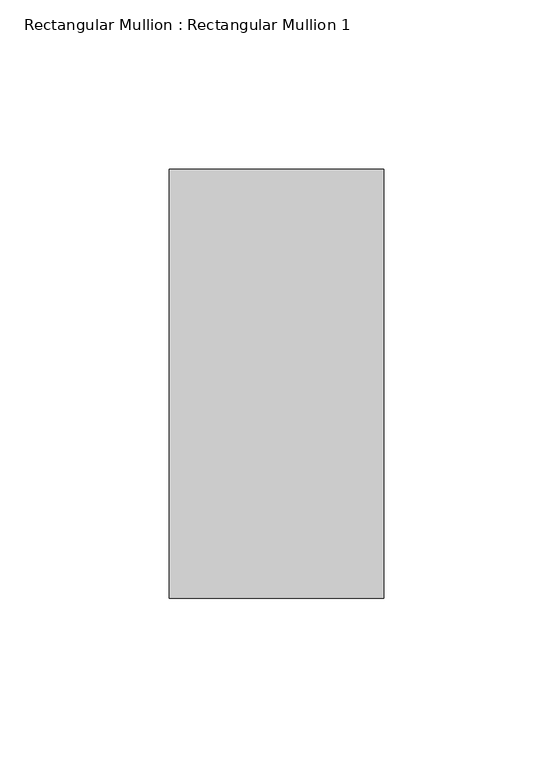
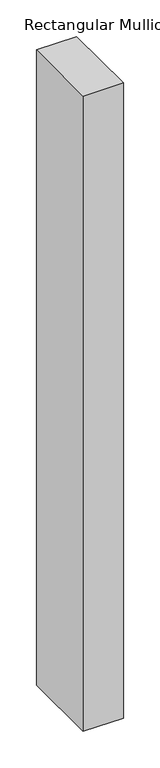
"""IFC4 building model written with IfcOpenShell, lengths in millimetres: member geometry, Rectangular Mullion : Rectangular Mullion 1."""

from ifc_helpers import new_model, si_unit, frame, origin, place, context, project, spatial, polyline, outline, extrude, source, transform, mapped, element, save


def rectangular_mullion_rectangular_mullion_1_b141be86(model_context):
    return source(origin(), model_context, "Body", "SweptSolid", [
        extrude(outline(polyline([(31.75, 63.5), (31.75, -63.5), (-31.75, -63.5), (-31.75, 63.5), (31.75, 63.5)])), frame((0.0, 0.0, -1057.7285714), z_axis=(0.0, 0.0, 1.0), x_axis=(1.0, 0.0, 0.0)), (0.0, 0.0, 1.0), 1057.7285714),
    ])


if __name__ == "__main__":
    model = new_model("IFC4")
    model_context = context("Model", 3, world=origin())
    ifc_project = project(units=[si_unit("LENGTHUNIT", "METRE", prefix="MILLI")], contexts=[model_context])
    site = spatial("IfcSite", under=ifc_project)
    building = spatial("IfcBuilding", under=site)
    placement = place(None, origin())
    rectangular_mullion_rectangular_mullion_1_shape = rectangular_mullion_rectangular_mullion_1_b141be86(model_context)
    element("IfcMember", 1, ObjectType="Rectangular Mullion : Rectangular Mullion 1", at=placement, inside=building, context=model_context, shape_type="MappedRepresentation", body=[
        mapped(rectangular_mullion_rectangular_mullion_1_shape, transform((0.0, 0.0, 0.0), x_axis=(1.0, 0.0, 0.0), y_axis=(0.0, 1.0, 0.0), z_axis=(0.0, 0.0, 1.0))),
    ])
    save(model, "model.ifc")
